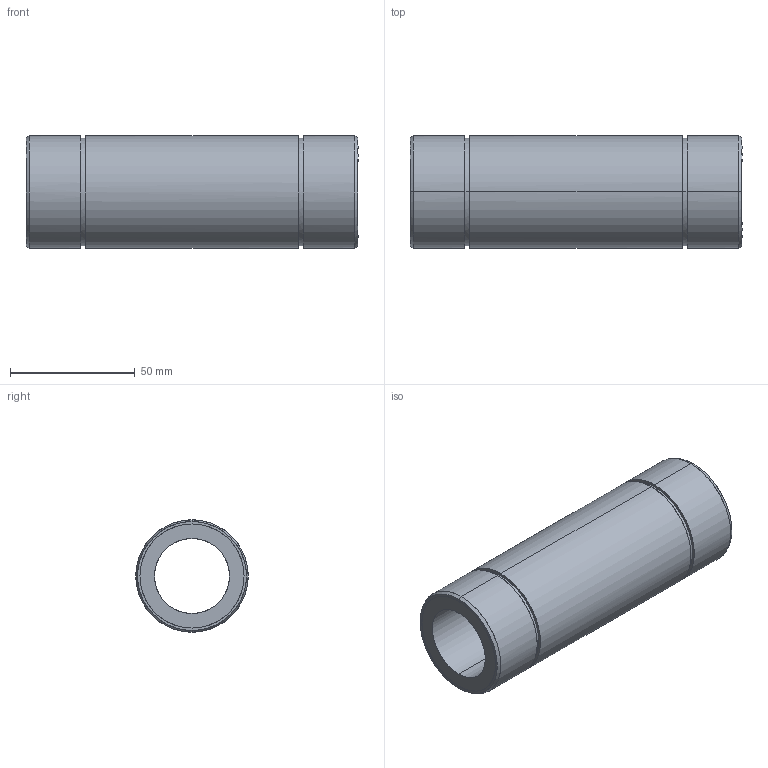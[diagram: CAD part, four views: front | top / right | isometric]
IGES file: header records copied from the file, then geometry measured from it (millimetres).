
Global section: file name: No Iges File Name specified; native system: AutoDesk Inventor R10; preprocessor: AutoDesk Inventor Iges Exporter R10; author: No Author specified; organization: No Organization specified; date: 20101216.153000; units: millimetre
Bounding box: 133 x 45 x 45 mm (x, y, z)
Surface area: 33494.2 mm2 (no closed solid volume)
Topology: 0 solids, 0 shells, 28 faces, 184 edges, 184 vertices
Faces by surface type: bspline 28
